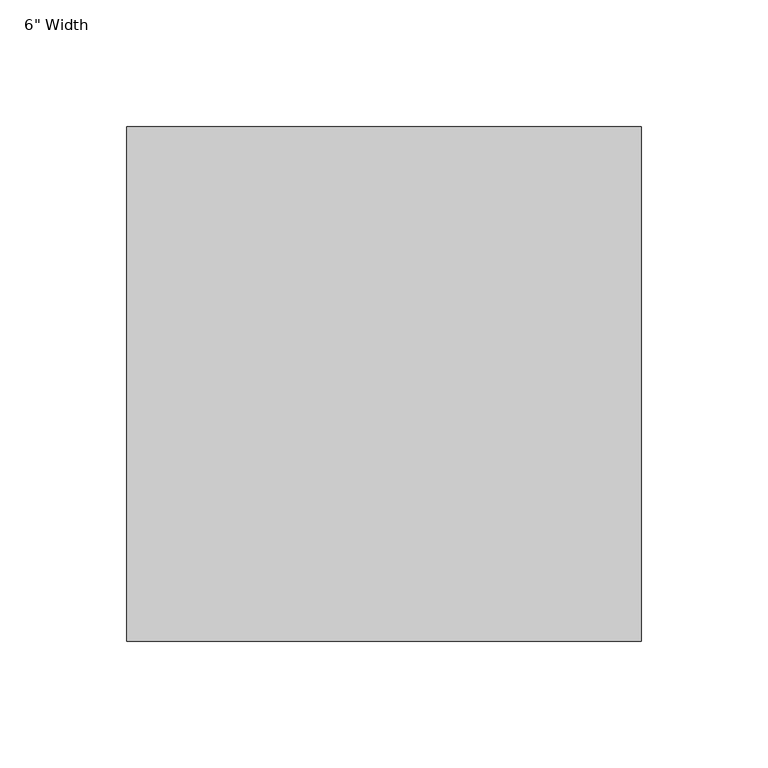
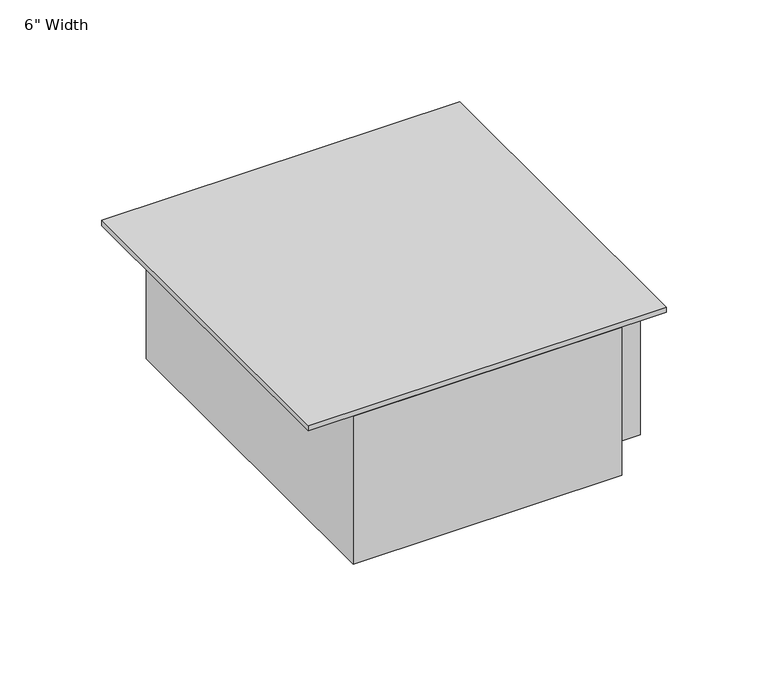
"""IFC4 building model written with IfcOpenShell, lengths in millimetres: proxy geometry."""

from ifc_helpers import new_model, si_unit, frame, origin, place, context, project, spatial, polyline, outline, extrude, source, transform, mapped, element, save


def proxy_846f6db0(model_context):
    return source(origin(), model_context, "Body", "SweptSolid", [
        extrude(outline(polyline([(101.6, 101.6), (101.6, -101.6), (-101.6, -101.6), (-101.6, 101.6), (101.6, 101.6)])), frame((0.0, 0.0, -3.175), z_axis=(0.0, 0.0, 1.0), x_axis=(1.0, 0.0, 0.0)), (0.0, 0.0, 1.0), 3.175),
        extrude(outline(polyline([(76.2, 101.6), (76.2, 76.2), (101.6, 76.2), (101.6, -76.2), (76.2, -76.2), (76.2, -101.6), (-76.2, -101.6), (-76.2, 101.6), (76.2, 101.6)])), frame((0.0, 0.0, -92.075), z_axis=(0.0, 0.0, 1.0), x_axis=(1.0, 0.0, 0.0)), (0.0, 0.0, 1.0), 88.9),
    ])


if __name__ == "__main__":
    model = new_model("IFC4")
    model_context = context("Model", 3, world=origin())
    ifc_project = project(units=[si_unit("LENGTHUNIT", "METRE", prefix="MILLI")], contexts=[model_context])
    site = spatial("IfcSite", under=ifc_project)
    building = spatial("IfcBuilding", under=site)
    placement = place(None, origin())
    proxy_shape = proxy_846f6db0(model_context)
    element("IfcBuildingElementProxy", 1, Name="Tee_Unit-Wallduct-Wiremold : 6\" Width", ObjectType="Tee_Unit-Wallduct-Wiremold : 6\" Width", at=placement, inside=building, context=model_context, shape_type="MappedRepresentation", body=[
        mapped(proxy_shape, transform((0.0, 0.0, 0.0), x_axis=(1.0, 0.0, 0.0), y_axis=(0.0, 1.0, 0.0), z_axis=(0.0, 0.0, 1.0))),
    ])
    save(model, "model.ifc")
